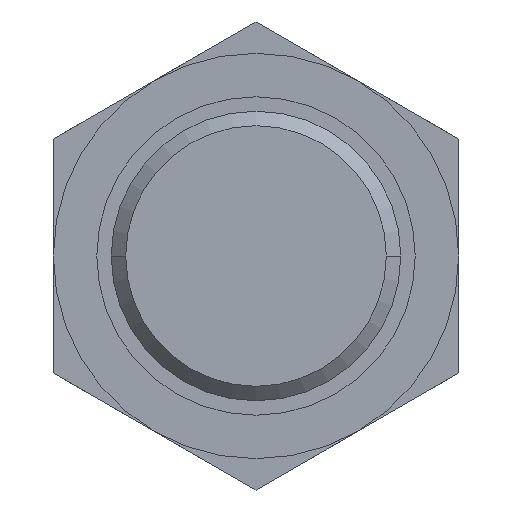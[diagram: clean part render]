
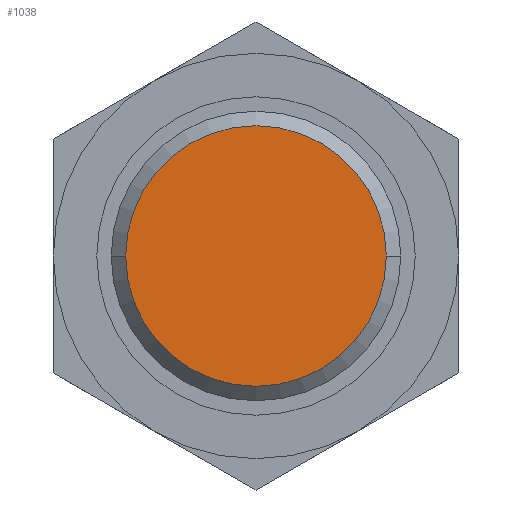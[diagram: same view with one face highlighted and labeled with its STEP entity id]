
A CAD part, left-side view. The second image highlights one B-rep face of the part: STEP entity #1038.
In plain terms, the highlighted planar face has unit normal (-1, 0, 0).
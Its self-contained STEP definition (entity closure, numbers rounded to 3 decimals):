
#416=CARTESIAN_POINT('',(0.,0.,0.));
#417=DIRECTION('',(-1.,0.,0.));
#418=DIRECTION('',(0.,1.,0.));
#419=AXIS2_PLACEMENT_3D('',#416,#417,#418);
#421=CARTESIAN_POINT('',(0.,0.,0.));
#422=DIRECTION('',(-1.,0.,0.));
#423=DIRECTION('',(0.,-1.,0.));
#424=AXIS2_PLACEMENT_3D('',#421,#422,#423);
#498=CARTESIAN_POINT('',(0.,4.5,0.));
#499=CARTESIAN_POINT('',(0.,-4.5,0.));
#500=VERTEX_POINT('',#498);
#501=VERTEX_POINT('',#499);
#1028=CARTESIAN_POINT('',(0.,0.,0.));
#1029=DIRECTION('',(1.,0.,0.));
#1030=DIRECTION('',(0.,-1.,0.));
#1031=AXIS2_PLACEMENT_3D('',#1028,#1029,#1030);
#1032=PLANE('',#1031);
#1033=ORIENTED_EDGE('',*,*,#1018,.F.);
#1035=ORIENTED_EDGE('',*,*,#1034,.F.);
#1036=EDGE_LOOP('',(#1033,#1035));
#1037=FACE_OUTER_BOUND('',#1036,.F.);
#1038=ADVANCED_FACE('',(#1037),#1032,.F.);
#420=CIRCLE('',#419,4.5);
#425=CIRCLE('',#424,4.5);
#1018=EDGE_CURVE('',#500,#501,#420,.T.);
#1034=EDGE_CURVE('',#501,#500,#425,.T.);
